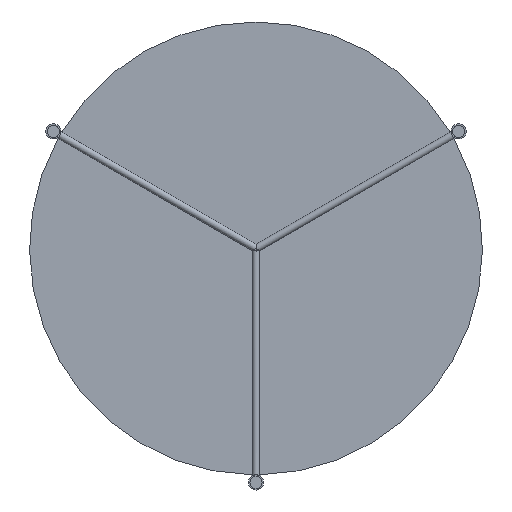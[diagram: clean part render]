
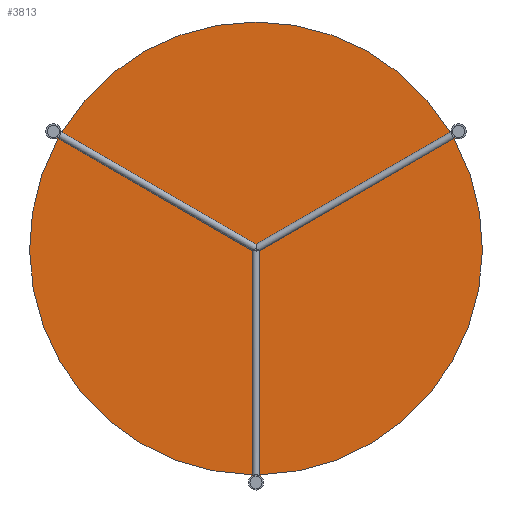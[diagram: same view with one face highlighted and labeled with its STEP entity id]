
A CAD part, front view. The second image highlights one B-rep face of the part: STEP entity #3813.
In plain terms, the highlighted planar face has unit normal (0, -1, 0).
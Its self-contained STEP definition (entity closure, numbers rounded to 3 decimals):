
#13 = EDGE_CURVE ( 'NONE', #612, #740, #871, .T. ) ;
#140 = DIRECTION ( 'NONE',  ( 0.866, 0., -0.5 ) ) ;
#146 = CARTESIAN_POINT ( 'NONE',  ( 258.6, 451., 156.231 ) ) ;
#179 = AXIS2_PLACEMENT_3D ( 'NONE', #1060, #301, #1343 ) ;
#191 = EDGE_CURVE ( 'NONE', #1305, #2802, #3797, .T. ) ;
#220 = CARTESIAN_POINT ( 'NONE',  ( -264.6, 451., 145.839 ) ) ;
#224 = ORIENTED_EDGE ( 'NONE', *, *, #2263, .T. ) ;
#236 = VERTEX_POINT ( 'NONE', #3079 ) ;
#239 = EDGE_CURVE ( 'NONE', #3739, #4043, #3443, .T. ) ;
#251 = EDGE_CURVE ( 'NONE', #451, #1705, #4188, .T. ) ;
#301 = DIRECTION ( 'NONE',  ( 0., 1., 0. ) ) ;
#313 = FACE_OUTER_BOUND ( 'NONE', #2399, .T. ) ;
#384 = VECTOR ( 'NONE', #1614, 1000. ) ;
#422 = ORIENTED_EDGE ( 'NONE', *, *, #2139, .T. ) ;
#431 = VERTEX_POINT ( 'NONE', #1782 ) ;
#436 = VERTEX_POINT ( 'NONE', #1690 ) ;
#451 = VERTEX_POINT ( 'NONE', #3138 ) ;
#468 = DIRECTION ( 'NONE',  ( 0., -1., 0. ) ) ;
#485 = DIRECTION ( 'NONE',  ( 0., 0., -1. ) ) ;
#509 = DIRECTION ( 'NONE',  ( 0., 0., -1. ) ) ;
#526 = CARTESIAN_POINT ( 'NONE',  ( 0., 451., 0. ) ) ;
#561 = CARTESIAN_POINT ( 'NONE',  ( 271.528, 451., 149.839 ) ) ;
#573 = ORIENTED_EDGE ( 'NONE', *, *, #1898, .T. ) ;
#597 = VECTOR ( 'NONE', #1182, 1000. ) ;
#601 = CARTESIAN_POINT ( 'NONE',  ( 0., 451., 0. ) ) ;
#612 = VERTEX_POINT ( 'NONE', #220 ) ;
#622 = PLANE ( 'NONE',  #2799 ) ;
#719 = ORIENTED_EDGE ( 'NONE', *, *, #1345, .T. ) ;
#740 = VERTEX_POINT ( 'NONE', #2108 ) ;
#810 = EDGE_CURVE ( 'NONE', #431, #612, #1168, .T. ) ;
#847 = CARTESIAN_POINT ( 'NONE',  ( 0., 451., 0. ) ) ;
#871 = LINE ( 'NONE', #3184, #4114 ) ;
#876 = CIRCLE ( 'NONE', #1294, 300. ) ;
#1000 = CARTESIAN_POINT ( 'NONE',  ( -6., 451., -299.94 ) ) ;
#1018 = VECTOR ( 'NONE', #2044, 1000. ) ;
#1060 = CARTESIAN_POINT ( 'NONE',  ( -268.528, 451., 155.035 ) ) ;
#1096 = AXIS2_PLACEMENT_3D ( 'NONE', #847, #468, #509 ) ;
#1130 = ORIENTED_EDGE ( 'NONE', *, *, #251, .T. ) ;
#1168 = CIRCLE ( 'NONE', #179, 10. ) ;
#1182 = DIRECTION ( 'NONE',  ( 0., 0., 1. ) ) ;
#1228 = CIRCLE ( 'NONE', #1449, 10. ) ;
#1234 = CARTESIAN_POINT ( 'NONE',  ( -6., 451., -310.07 ) ) ;
#1294 = AXIS2_PLACEMENT_3D ( 'NONE', #2828, #3157, #485 ) ;
#1305 = VERTEX_POINT ( 'NONE', #146 ) ;
#1343 = DIRECTION ( 'NONE',  ( 0., 0., -1. ) ) ;
#1345 = EDGE_CURVE ( 'NONE', #1988, #451, #1919, .T. ) ;
#1413 = ORIENTED_EDGE ( 'NONE', *, *, #3234, .T. ) ;
#1449 = AXIS2_PLACEMENT_3D ( 'NONE', #1694, #2679, #2614 ) ;
#1550 = DIRECTION ( 'NONE',  ( 0., 0., -1. ) ) ;
#1614 = DIRECTION ( 'NONE',  ( 0.866, 0., 0.5 ) ) ;
#1622 = ORIENTED_EDGE ( 'NONE', *, *, #2795, .T. ) ;
#1690 = CARTESIAN_POINT ( 'NONE',  ( 0., 451., 300. ) ) ;
#1694 = CARTESIAN_POINT ( 'NONE',  ( 268.528, 451., 155.035 ) ) ;
#1695 = DIRECTION ( 'NONE',  ( 0., 0., -1. ) ) ;
#1705 = VERTEX_POINT ( 'NONE', #2331 ) ;
#1720 = ORIENTED_EDGE ( 'NONE', *, *, #3159, .T. ) ;
#1782 = CARTESIAN_POINT ( 'NONE',  ( -258.6, 451., 156.231 ) ) ;
#1817 = CIRCLE ( 'NONE', #2238, 10. ) ;
#1839 = CARTESIAN_POINT ( 'NONE',  ( 6., 451., -299.94 ) ) ;
#1898 = EDGE_CURVE ( 'NONE', #2802, #436, #876, .T. ) ;
#1919 = LINE ( 'NONE', #1839, #597 ) ;
#1925 = DIRECTION ( 'NONE',  ( 0., -1., 0. ) ) ;
#1961 = CARTESIAN_POINT ( 'NONE',  ( 256.756, 451., 155.166 ) ) ;
#1988 = VERTEX_POINT ( 'NONE', #3542 ) ;
#2043 = ORIENTED_EDGE ( 'NONE', *, *, #3026, .T. ) ;
#2044 = DIRECTION ( 'NONE',  ( -0.866, 0., -0.5 ) ) ;
#2056 = LINE ( 'NONE', #2326, #2789 ) ;
#2080 = ORIENTED_EDGE ( 'NONE', *, *, #239, .T. ) ;
#2108 = CARTESIAN_POINT ( 'NONE',  ( -262.756, 451., 144.774 ) ) ;
#2139 = EDGE_CURVE ( 'NONE', #3357, #431, #2056, .T. ) ;
#2193 = DIRECTION ( 'NONE',  ( 0., -1., 0. ) ) ;
#2238 = AXIS2_PLACEMENT_3D ( 'NONE', #2398, #3738, #3403 ) ;
#2263 = EDGE_CURVE ( 'NONE', #1705, #236, #2870, .T. ) ;
#2326 = CARTESIAN_POINT ( 'NONE',  ( -265.528, 451., 160.231 ) ) ;
#2331 = CARTESIAN_POINT ( 'NONE',  ( 262.756, 451., 144.774 ) ) ;
#2398 = CARTESIAN_POINT ( 'NONE',  ( 0., 451., -310.07 ) ) ;
#2399 = EDGE_LOOP ( 'NONE', ( #422, #3263, #4065, #2043, #2080, #1720, #719, #1130, #224, #1622, #3830, #573, #1413 ) ) ;
#2591 = CARTESIAN_POINT ( 'NONE',  ( -6., 451., -302.07 ) ) ;
#2614 = DIRECTION ( 'NONE',  ( 0., 0., -1. ) ) ;
#2679 = DIRECTION ( 'NONE',  ( 0., 1., 0. ) ) ;
#2779 = CARTESIAN_POINT ( 'NONE',  ( 0., 451., 0. ) ) ;
#2789 = VECTOR ( 'NONE', #3401, 1000. ) ;
#2795 = EDGE_CURVE ( 'NONE', #236, #1305, #1228, .T. ) ;
#2799 = AXIS2_PLACEMENT_3D ( 'NONE', #601, #2987, #1695 ) ;
#2802 = VERTEX_POINT ( 'NONE', #1961 ) ;
#2828 = CARTESIAN_POINT ( 'NONE',  ( 0., 451., 0. ) ) ;
#2870 = LINE ( 'NONE', #561, #384 ) ;
#2908 = CARTESIAN_POINT ( 'NONE',  ( -256.756, 451., 155.166 ) ) ;
#2930 = AXIS2_PLACEMENT_3D ( 'NONE', #526, #1925, #1550 ) ;
#2987 = DIRECTION ( 'NONE',  ( 0., -1., 0. ) ) ;
#3026 = EDGE_CURVE ( 'NONE', #740, #3739, #4191, .T. ) ;
#3078 = AXIS2_PLACEMENT_3D ( 'NONE', #2779, #2193, #4121 ) ;
#3079 = CARTESIAN_POINT ( 'NONE',  ( 264.6, 451., 145.839 ) ) ;
#3138 = CARTESIAN_POINT ( 'NONE',  ( 6., 451., -299.94 ) ) ;
#3157 = DIRECTION ( 'NONE',  ( 0., -1., 0. ) ) ;
#3159 = EDGE_CURVE ( 'NONE', #4043, #1988, #1817, .T. ) ;
#3184 = CARTESIAN_POINT ( 'NONE',  ( -262.756, 451., 144.774 ) ) ;
#3234 = EDGE_CURVE ( 'NONE', #436, #3357, #3510, .T. ) ;
#3263 = ORIENTED_EDGE ( 'NONE', *, *, #810, .T. ) ;
#3347 = VECTOR ( 'NONE', #4218, 1000. ) ;
#3357 = VERTEX_POINT ( 'NONE', #2908 ) ;
#3401 = DIRECTION ( 'NONE',  ( -0.866, 0., 0.5 ) ) ;
#3403 = DIRECTION ( 'NONE',  ( 0., 0., -1. ) ) ;
#3443 = LINE ( 'NONE', #1234, #3347 ) ;
#3510 = CIRCLE ( 'NONE', #3078, 300. ) ;
#3542 = CARTESIAN_POINT ( 'NONE',  ( 6., 451., -302.07 ) ) ;
#3738 = DIRECTION ( 'NONE',  ( 0., 1., 0. ) ) ;
#3739 = VERTEX_POINT ( 'NONE', #1000 ) ;
#3797 = LINE ( 'NONE', #4067, #1018 ) ;
#3813 = ADVANCED_FACE ( 'NONE', ( #313 ), #622, .T. ) ;
#3830 = ORIENTED_EDGE ( 'NONE', *, *, #191, .T. ) ;
#4043 = VERTEX_POINT ( 'NONE', #2591 ) ;
#4065 = ORIENTED_EDGE ( 'NONE', *, *, #13, .T. ) ;
#4067 = CARTESIAN_POINT ( 'NONE',  ( 256.756, 451., 155.166 ) ) ;
#4114 = VECTOR ( 'NONE', #140, 1000. ) ;
#4121 = DIRECTION ( 'NONE',  ( 0., 0., -1. ) ) ;
#4188 = CIRCLE ( 'NONE', #1096, 300. ) ;
#4191 = CIRCLE ( 'NONE', #2930, 300. ) ;
#4218 = DIRECTION ( 'NONE',  ( 0., 0., -1. ) ) ;
